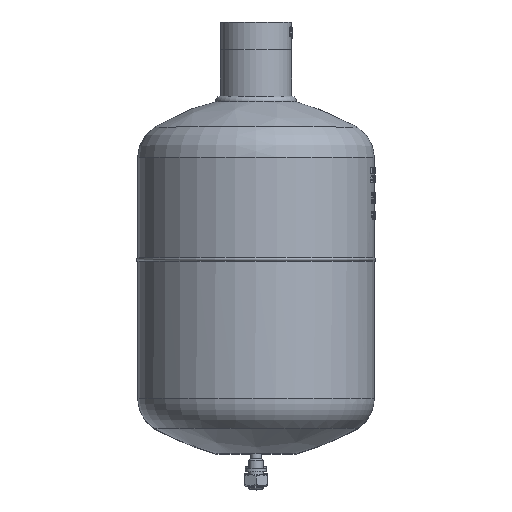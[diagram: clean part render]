
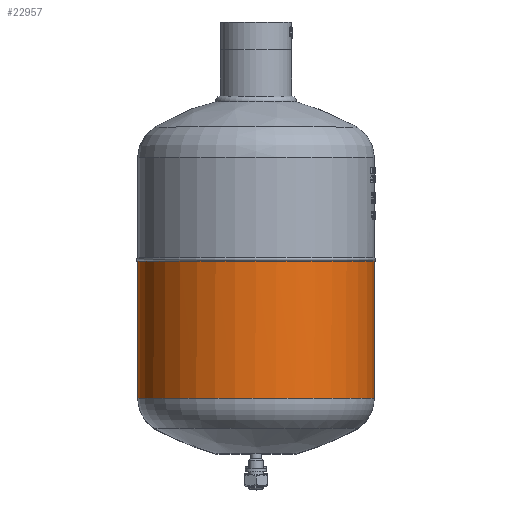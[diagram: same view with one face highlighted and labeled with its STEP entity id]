
A CAD part, top view. The second image highlights one B-rep face of the part: STEP entity #22957.
In plain terms, the highlighted cylindrical face has radius 99 mm (diameter 198 mm), a full revolution.
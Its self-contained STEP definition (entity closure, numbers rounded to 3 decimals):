
#177=FACE_BOUND('',#4700,.T.);
#1497=B_SPLINE_CURVE_WITH_KNOTS('',3,(#48736,#48737,#48738,#48739,#48740,
#48741,#48742,#48743,#48744,#48745,#48746,#48747,#48748,#48749,#48750,#48751,
#48752,#48753,#48754,#48755,#48756,#48757,#48758,#48759,#48760,#48761,#48762,
#48763,#48764,#48765,#48766,#48767,#48768,#48769,#48770),.UNSPECIFIED.,
 .F.,.F.,(4,2,2,2,2,2,2,2,2,2,2,2,3,2,2,2,4),(1.592,1.696,
2.035,2.375,2.714,3.053,3.392,
3.731,4.071,4.41,4.749,5.088,
5.428,5.767,6.106,6.445,6.549),
 .UNSPECIFIED.);
#1610=CYLINDRICAL_SURFACE('',#24671,99.);
#2033=CIRCLE('',#24632,99.);
#2050=CIRCLE('',#24669,99.);
#3306=FACE_OUTER_BOUND('',#4699,.T.);
#4699=EDGE_LOOP('',(#20744,#20745));
#4700=EDGE_LOOP('',(#20746));
#10622=VERTEX_POINT('',#47982);
#10699=VERTEX_POINT('',#48706);
#10700=VERTEX_POINT('',#48707);
#13965=EDGE_CURVE('',#10622,#10622,#2033,.T.);
#14078=EDGE_CURVE('',#10699,#10700,#2050,.T.);
#14081=EDGE_CURVE('',#10700,#10699,#1497,.T.);
#20744=ORIENTED_EDGE('',*,*,#14078,.F.);
#20745=ORIENTED_EDGE('',*,*,#14081,.F.);
#20746=ORIENTED_EDGE('',*,*,#13965,.T.);
#22957=ADVANCED_FACE('',(#3306,#177),#1610,.T.);
#24632=AXIS2_PLACEMENT_3D('',#47983,#29513,#29514);
#24669=AXIS2_PLACEMENT_3D('',#48708,#29639,#29640);
#24671=AXIS2_PLACEMENT_3D('',#48735,#29643,#29644);
#29513=DIRECTION('center_axis',(0.,-1.,0.));
#29514=DIRECTION('ref_axis',(-1.,0.,0.));
#29639=DIRECTION('center_axis',(0.,-1.,0.));
#29640=DIRECTION('ref_axis',(1.,0.,0.));
#29643=DIRECTION('center_axis',(0.,-1.,0.));
#29644=DIRECTION('ref_axis',(-1.,0.,0.));
#47982=CARTESIAN_POINT('',(-99.,-100.575,256.456));
#47983=CARTESIAN_POINT('Origin',(0.,-100.575,
256.456));
#48706=CARTESIAN_POINT('',(2.403,-215.249,157.486));
#48707=CARTESIAN_POINT('',(-2.403,-215.249,157.486));
#48708=CARTESIAN_POINT('Origin',(0.,-215.249,256.456));
#48735=CARTESIAN_POINT('Origin',(0.,-157.912,
256.456));
#48736=CARTESIAN_POINT('Ctrl Pts',(-2.403,-215.249,
157.486));
#48737=CARTESIAN_POINT('Ctrl Pts',(-2.756,-215.151,
157.494));
#48738=CARTESIAN_POINT('Ctrl Pts',(-3.105,-215.031,
157.505));
#48739=CARTESIAN_POINT('Ctrl Pts',(-4.554,-214.431,157.555));
#48740=CARTESIAN_POINT('Ctrl Pts',(-5.565,-213.738,
157.61));
#48741=CARTESIAN_POINT('Ctrl Pts',(-7.163,-212.141,
157.713));
#48742=CARTESIAN_POINT('Ctrl Pts',(-7.855,-211.129,
157.767));
#48743=CARTESIAN_POINT('Ctrl Pts',(-8.774,-208.912,
157.845));
#48744=CARTESIAN_POINT('Ctrl Pts',(-9.,-207.706,
157.866));
#48745=CARTESIAN_POINT('Ctrl Pts',(-9.,-205.445,
157.866));
#48746=CARTESIAN_POINT('Ctrl Pts',(-8.774,-204.239,
157.845));
#48747=CARTESIAN_POINT('Ctrl Pts',(-7.855,-202.022,157.767));
#48748=CARTESIAN_POINT('Ctrl Pts',(-7.163,-201.01,157.713));
#48749=CARTESIAN_POINT('Ctrl Pts',(-5.565,-199.413,157.61));
#48750=CARTESIAN_POINT('Ctrl Pts',(-4.554,-198.72,157.555));
#48751=CARTESIAN_POINT('Ctrl Pts',(-2.336,-197.801,157.478));
#48752=CARTESIAN_POINT('Ctrl Pts',(-1.131,-197.575,
157.456));
#48753=CARTESIAN_POINT('Ctrl Pts',(1.131,-197.575,157.456));
#48754=CARTESIAN_POINT('Ctrl Pts',(2.336,-197.801,157.478));
#48755=CARTESIAN_POINT('Ctrl Pts',(4.554,-198.72,157.555));
#48756=CARTESIAN_POINT('Ctrl Pts',(5.565,-199.413,157.61));
#48757=CARTESIAN_POINT('Ctrl Pts',(7.163,-201.01,157.713));
#48758=CARTESIAN_POINT('Ctrl Pts',(7.855,-202.022,157.767));
#48759=CARTESIAN_POINT('Ctrl Pts',(8.774,-204.239,157.845));
#48760=CARTESIAN_POINT('Ctrl Pts',(9.,-205.445,157.866));
#48761=CARTESIAN_POINT('Ctrl Pts',(9.,-206.575,157.866));
#48762=CARTESIAN_POINT('Ctrl Pts',(9.,-207.706,157.866));
#48763=CARTESIAN_POINT('Ctrl Pts',(8.774,-208.912,157.845));
#48764=CARTESIAN_POINT('Ctrl Pts',(7.855,-211.129,157.767));
#48765=CARTESIAN_POINT('Ctrl Pts',(7.163,-212.141,157.713));
#48766=CARTESIAN_POINT('Ctrl Pts',(5.565,-213.738,157.61));
#48767=CARTESIAN_POINT('Ctrl Pts',(4.554,-214.431,157.555));
#48768=CARTESIAN_POINT('Ctrl Pts',(3.105,-215.031,157.505));
#48769=CARTESIAN_POINT('Ctrl Pts',(2.756,-215.151,157.494));
#48770=CARTESIAN_POINT('Ctrl Pts',(2.403,-215.249,157.486));
